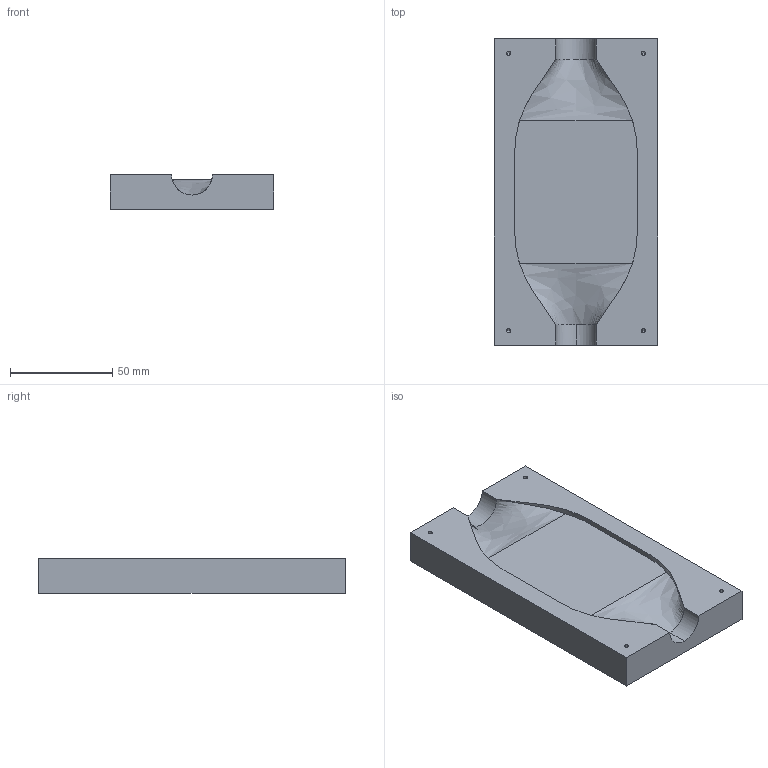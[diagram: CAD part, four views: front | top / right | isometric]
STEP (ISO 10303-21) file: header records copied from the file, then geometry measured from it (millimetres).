
FILE_DESCRIPTION (( 'STEP AP214' ), '1' );
FILE_NAME ('Pruzor_dil_v.2.STEP', '2019-08-05T07:23:15', ( '' ), ( '' ), 'SwSTEP 2.0', 'SolidWorks 2016', '' );
FILE_SCHEMA (( 'AUTOMOTIVE_DESIGN' ));
Length unit declared in the file: millimetre
Products named in the file (1): Pruzor_dil_v.2
Bounding box: 80 x 150 x 17 mm (x, y, z)
Volume: 180436.1 mm3; surface area: 32601.9 mm2
Topology: 1 solids, 1 shells, 39 faces, 99 edges, 58 vertices
Faces by surface type: cylinder 15, plane 14, cone 8, bspline 2
Entity records: 1352 total; most frequent: CARTESIAN_POINT 421, DIRECTION 186, ORIENTED_EDGE 182, EDGE_CURVE 91, AXIS2_PLACEMENT_3D 65, VERTEX_POINT 58, VECTOR 56, LINE 56
